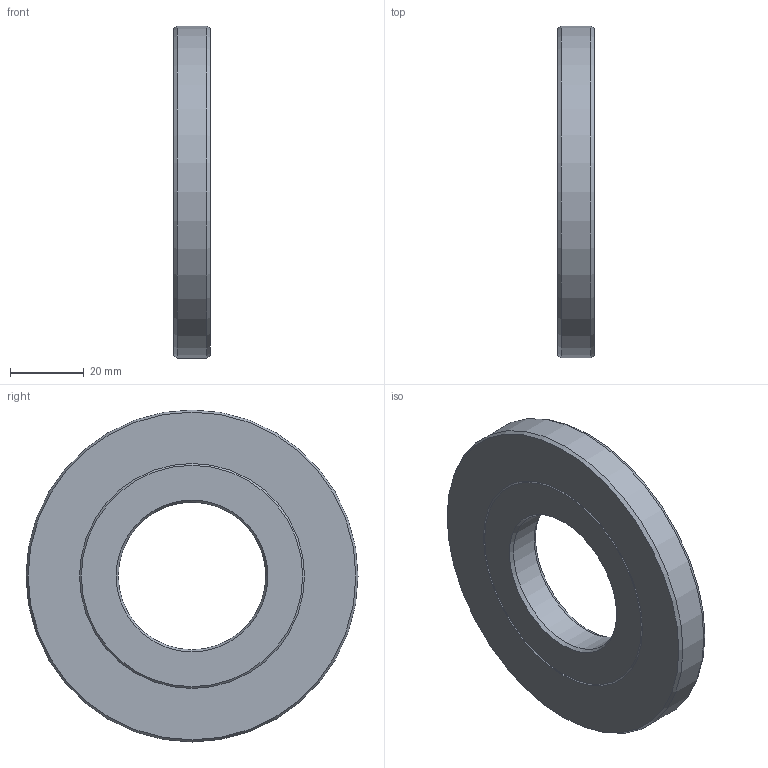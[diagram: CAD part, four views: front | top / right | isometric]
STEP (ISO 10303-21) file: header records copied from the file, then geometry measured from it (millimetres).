
FILE_DESCRIPTION(/* description */ (''),/* implementation_level */ '2;1');
FILE_NAME(/* name */ '301851 SA 40x90x10.stp',/* time_stamp */ '2016-12-16T15:25:55+01:00',/* author */ (''),/* organization */ (''),/* preprocessor_version */ 'ST-DEVELOPER v15',/* originating_system */ 'SIEMENS PLM Software NX 8.5',/* authorisation */ '');
FILE_SCHEMA (('CONFIG_CONTROL_DESIGN'));
Length unit declared in the file: millimetre
Products named in the file (1): ATE0000144_01
Bounding box: 10 x 90 x 90 mm (x, y, z)
Volume: 49642.6 mm3; surface area: 19261.1 mm2
Topology: 2 solids, 2 shells, 18 faces, 37 edges, 23 vertices
Faces by surface type: cone 10, plane 5, cylinder 3
Full cylindrical faces by diameter (mm): 40 x1, 90 x1
Entity records: 492 total; most frequent: DIRECTION 76, CARTESIAN_POINT 74, ORIENTED_EDGE 46, AXIS2_PLACEMENT_3D 38, EDGE_LOOP 33, FACE_BOUND 30, EDGE_CURVE 23, VERTEX_POINT 20
